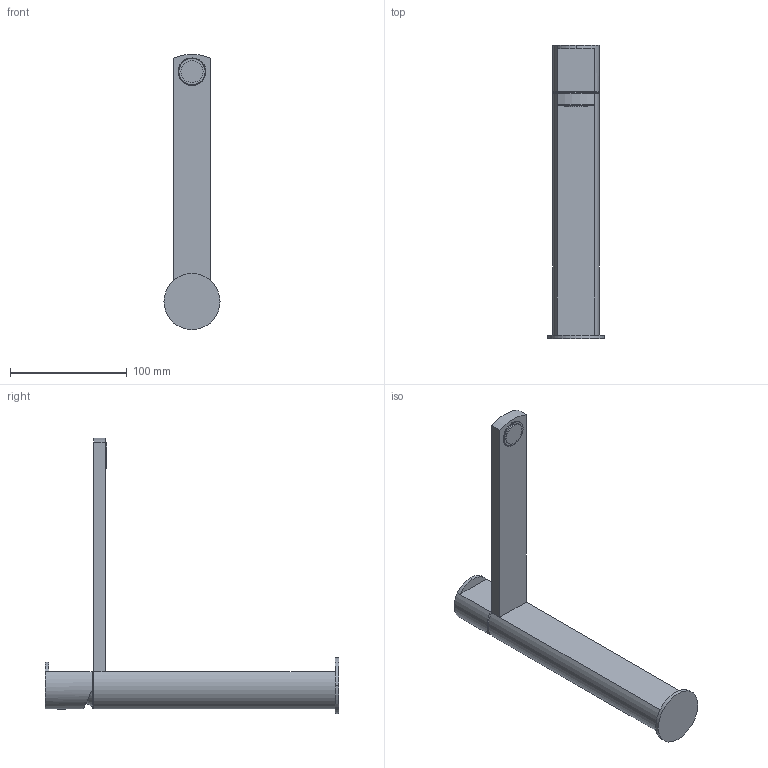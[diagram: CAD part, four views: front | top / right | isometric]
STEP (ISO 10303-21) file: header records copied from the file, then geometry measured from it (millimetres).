
FILE_DESCRIPTION((''),'2;1');
FILE_NAME('89040A21_SW0002','2020-06-17T16:19:55',('carloff'),(''),'CREO PARAMETRIC BY PTC INC, 2018100','CREO PARAMETRIC BY PTC INC, 2018100','');
FILE_SCHEMA(('CONFIG_CONTROL_DESIGN'));
Length unit declared in the file: millimetre
Products named in the file (1): 89040A21_SW0002
Bounding box: 48 x 251.3 x 235.7 mm (x, y, z)
Volume: 326421.7 mm3; surface area: 55334.9 mm2
Topology: 1 solids, 1 shells, 66 faces, 162 edges, 106 vertices
Faces by surface type: plane 27, cylinder 23, bspline 6, cone 4, torus 4, sphere 2
Entity records: 3587 total; most frequent: CARTESIAN_POINT 2001, ORIENTED_EDGE 320, DIRECTION 319, EDGE_CURVE 160, AXIS2_PLACEMENT_3D 130, VERTEX_POINT 106, EDGE_LOOP 78, CIRCLE 70
